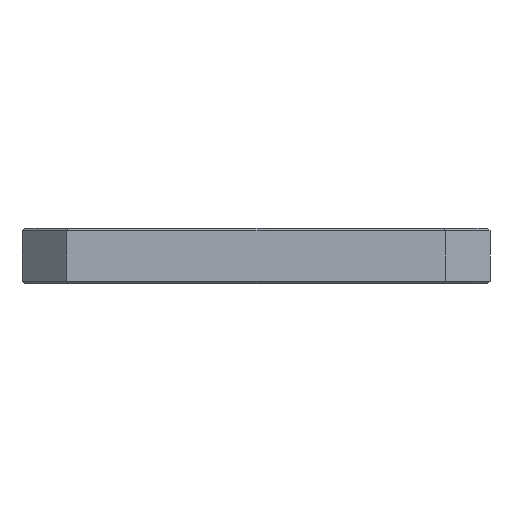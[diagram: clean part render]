
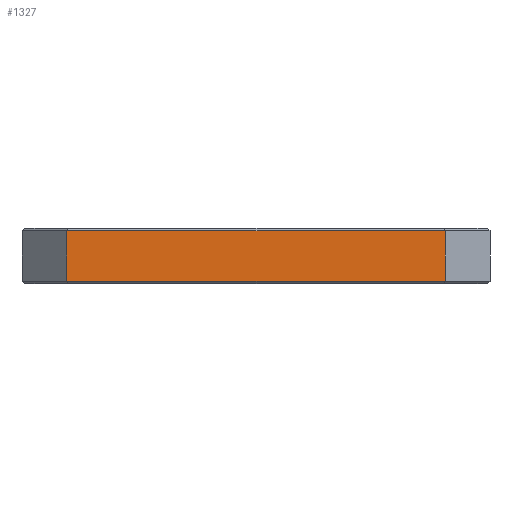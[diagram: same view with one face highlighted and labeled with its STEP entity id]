
A CAD part, front view. The second image highlights one B-rep face of the part: STEP entity #1327.
In plain terms, the highlighted planar face has unit normal (0, -1, 0).
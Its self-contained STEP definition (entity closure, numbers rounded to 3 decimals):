
#14 = LINE ( 'NONE', #1504, #139 ) ;
#71 = EDGE_CURVE ( 'NONE', #1576, #758, #795, .T. ) ;
#105 = CARTESIAN_POINT ( 'NONE',  ( 17., -21., 4.75 ) ) ;
#126 = ORIENTED_EDGE ( 'NONE', *, *, #317, .T. ) ;
#139 = VECTOR ( 'NONE', #651, 1000. ) ;
#214 = VECTOR ( 'NONE', #939, 1000. ) ;
#317 = EDGE_CURVE ( 'NONE', #1011, #703, #1450, .T. ) ;
#348 = DIRECTION ( 'NONE',  ( 0., 0., 1. ) ) ;
#351 = CARTESIAN_POINT ( 'NONE',  ( 17., -21., 5. ) ) ;
#543 = VECTOR ( 'NONE', #1068, 1000. ) ;
#595 = VECTOR ( 'NONE', #1400, 1000. ) ;
#620 = ORIENTED_EDGE ( 'NONE', *, *, #1008, .T. ) ;
#651 = DIRECTION ( 'NONE',  ( 0., 0., -1. ) ) ;
#690 = PLANE ( 'NONE',  #987 ) ;
#703 = VERTEX_POINT ( 'NONE', #1500 ) ;
#725 = EDGE_LOOP ( 'NONE', ( #1524, #1014, #620, #126 ) ) ;
#758 = VERTEX_POINT ( 'NONE', #831 ) ;
#785 = CARTESIAN_POINT ( 'NONE',  ( -17., -21., 0.25 ) ) ;
#795 = LINE ( 'NONE', #1161, #595 ) ;
#815 = DIRECTION ( 'NONE',  ( 0., 1., 0. ) ) ;
#831 = CARTESIAN_POINT ( 'NONE',  ( 17., -21., 0.25 ) ) ;
#939 = DIRECTION ( 'NONE',  ( 0., 0., 1. ) ) ;
#970 = FACE_OUTER_BOUND ( 'NONE', #725, .T. ) ;
#987 = AXIS2_PLACEMENT_3D ( 'NONE', #1187, #815, #348 ) ;
#1008 = EDGE_CURVE ( 'NONE', #758, #1011, #1453, .T. ) ;
#1011 = VERTEX_POINT ( 'NONE', #105 ) ;
#1014 = ORIENTED_EDGE ( 'NONE', *, *, #71, .T. ) ;
#1068 = DIRECTION ( 'NONE',  ( -1., 0., 0. ) ) ;
#1161 = CARTESIAN_POINT ( 'NONE',  ( 0., -21., 0.25 ) ) ;
#1187 = CARTESIAN_POINT ( 'NONE',  ( 0., -21., 5. ) ) ;
#1298 = CARTESIAN_POINT ( 'NONE',  ( -17., -21., 4.75 ) ) ;
#1327 = ADVANCED_FACE ( 'NONE', ( #970 ), #690, .F. ) ;
#1400 = DIRECTION ( 'NONE',  ( 1., 0., 0. ) ) ;
#1450 = LINE ( 'NONE', #1298, #543 ) ;
#1453 = LINE ( 'NONE', #351, #214 ) ;
#1472 = EDGE_CURVE ( 'NONE', #703, #1576, #14, .T. ) ;
#1500 = CARTESIAN_POINT ( 'NONE',  ( -17., -21., 4.75 ) ) ;
#1504 = CARTESIAN_POINT ( 'NONE',  ( -17., -21., 0. ) ) ;
#1524 = ORIENTED_EDGE ( 'NONE', *, *, #1472, .T. ) ;
#1576 = VERTEX_POINT ( 'NONE', #785 ) ;
